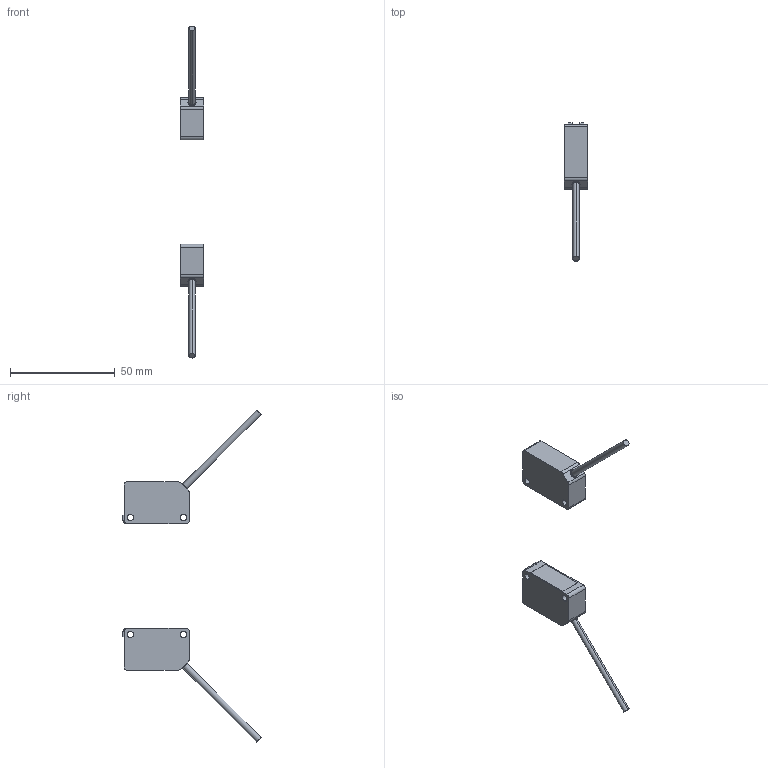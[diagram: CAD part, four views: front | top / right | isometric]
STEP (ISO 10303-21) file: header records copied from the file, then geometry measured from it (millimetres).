
FILE_DESCRIPTION (( 'STEP AP214' ), '1' );
FILE_NAME ('CPG-311,312.STEP', '2022-12-06T02:06:02', ( '' ), ( '' ), 'SwSTEP 2.0', 'SolidWorks 2020', '' );
FILE_SCHEMA (( 'AUTOMOTIVE_DESIGN' ));
Length unit declared in the file: millimetre
Products named in the file (2): CPG-311,312; CPG-311
Assembly tree (2 placements, depth 2):
  CPG-311,312
    CPG-311  x2
Bounding box: 11.2 x 66.18 x 158.76 mm (x, y, z)
Volume: 14001.9 mm3; surface area: 6011.2 mm2
Topology: 4 solids, 4 shells, 86 faces, 216 edges, 144 vertices
Faces by surface type: plane 48, cylinder 38
Entity records: 1446 total; most frequent: DIRECTION 242, CARTESIAN_POINT 228, ORIENTED_EDGE 216, EDGE_CURVE 108, AXIS2_PLACEMENT_3D 86, VERTEX_POINT 72, LINE 70, VECTOR 70
